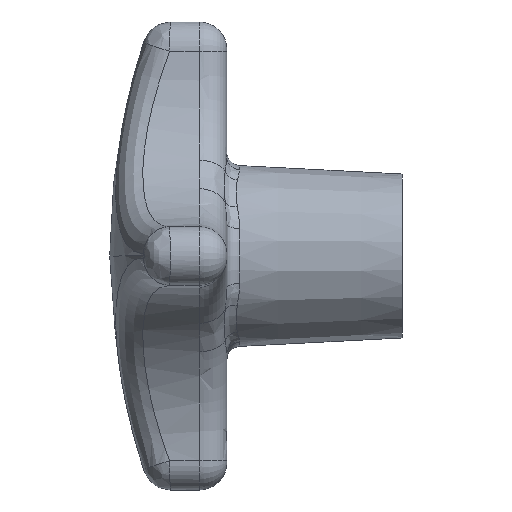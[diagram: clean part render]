
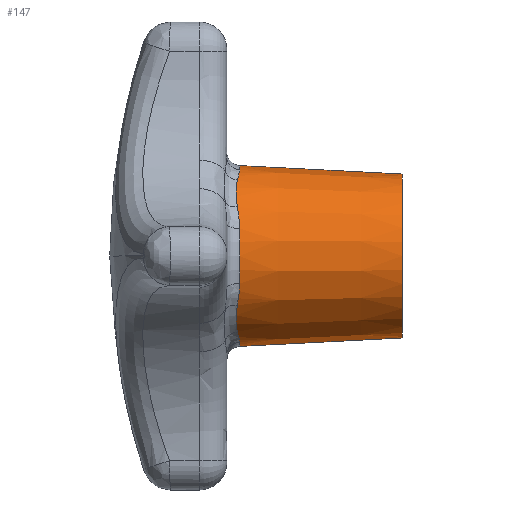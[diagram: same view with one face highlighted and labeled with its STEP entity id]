
A CAD part, left-side view. The second image highlights one B-rep face of the part: STEP entity #147.
In plain terms, the highlighted conical face has half-angle 3 degrees and reference radius 7 mm.
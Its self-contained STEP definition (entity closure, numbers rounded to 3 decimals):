
#12 = CARTESIAN_POINT ( 'NONE',  ( -5.67, -0.801, -5.282 ) ) ;
#14 = CARTESIAN_POINT ( 'NONE',  ( -6.861, -0.991, -3.636 ) ) ;
#23 = FACE_OUTER_BOUND ( 'NONE', #1424, .T. ) ;
#109 = CARTESIAN_POINT ( 'NONE',  ( -3.636, -0.991, -6.861 ) ) ;
#113 = VERTEX_POINT ( 'NONE', #1543 ) ;
#147 = ADVANCED_FACE ( 'NONE', ( #23 ), #2928, .T. ) ;
#245 = DIRECTION ( 'NONE',  ( 0., 1., 0. ) ) ;
#270 = EDGE_CURVE ( 'NONE', #2704, #2462, #1136, .T. ) ;
#289 = CARTESIAN_POINT ( 'NONE',  ( -6.489, -0.897, 4.218 ) ) ;
#303 = CARTESIAN_POINT ( 'NONE',  ( -7.15, -1.106, 3.016 ) ) ;
#318 = VERTEX_POINT ( 'NONE', #2044 ) ;
#338 = EDGE_CURVE ( 'NONE', #113, #3193, #2975, .T. ) ;
#375 = CARTESIAN_POINT ( 'NONE',  ( -2.349, -1.106, -7.363 ) ) ;
#377 = CARTESIAN_POINT ( 'NONE',  ( -3.636, -0.991, 6.861 ) ) ;
#385 = AXIS2_PLACEMENT_3D ( 'NONE', #2739, #2226, #2498 ) ;
#397 = CARTESIAN_POINT ( 'NONE',  ( -6.489, -0.897, -4.218 ) ) ;
#403 = DIRECTION ( 'NONE',  ( 0., 1., 0. ) ) ;
#404 = CARTESIAN_POINT ( 'NONE',  ( -6.343, -0.861, 4.445 ) ) ;
#417 = CARTESIAN_POINT ( 'NONE',  ( -6.489, -0.897, 4.218 ) ) ;
#497 = B_SPLINE_CURVE_WITH_KNOTS ( 'NONE', 3,
 ( #289, #2938, #303, #1103 ),
 .UNSPECIFIED., .F., .F.,
 ( 4, 4 ),
 ( 0., 0.002 ),
 .UNSPECIFIED. ) ;
#499 = CARTESIAN_POINT ( 'NONE',  ( 0., -15., 0. ) ) ;
#500 = DIRECTION ( 'NONE',  ( 0., -1., 0. ) ) ;
#513 = EDGE_CURVE ( 'NONE', #1246, #3373, #1219, .T. ) ;
#585 = CARTESIAN_POINT ( 'NONE',  ( -2.349, -1.106, 7.363 ) ) ;
#593 = ORIENTED_EDGE ( 'NONE', *, *, #2574, .T. ) ;
#665 = CARTESIAN_POINT ( 'NONE',  ( -4.218, -0.897, 6.489 ) ) ;
#754 = CARTESIAN_POINT ( 'NONE',  ( 0., -15., 7. ) ) ;
#796 = AXIS2_PLACEMENT_3D ( 'NONE', #996, #500, #2817 ) ;
#898 = CARTESIAN_POINT ( 'NONE',  ( 0., -15., 7. ) ) ;
#920 = CARTESIAN_POINT ( 'NONE',  ( -4.446, -0.861, 6.343 ) ) ;
#931 = CARTESIAN_POINT ( 'NONE',  ( -5.663, -0.8, 5.29 ) ) ;
#985 = CIRCLE ( 'NONE', #796, 7.728 ) ;
#996 = CARTESIAN_POINT ( 'NONE',  ( 0., -1.106, 0. ) ) ;
#1014 = VECTOR ( 'NONE', #2616, 1000. ) ;
#1067 = ORIENTED_EDGE ( 'NONE', *, *, #3282, .T. ) ;
#1080 = ORIENTED_EDGE ( 'NONE', *, *, #2258, .F. ) ;
#1103 = CARTESIAN_POINT ( 'NONE',  ( -7.363, -1.106, 2.349 ) ) ;
#1116 = EDGE_CURVE ( 'NONE', #1495, #1246, #1736, .T. ) ;
#1136 = B_SPLINE_CURVE_WITH_KNOTS ( 'NONE', 3,
 ( #665, #920, #2537, #1193, #3345, #931, #1758, #2810, #404, #1745 ),
 .UNSPECIFIED., .F., .F.,
 ( 4, 2, 2, 2, 4 ),
 ( 0., 0.001, 0.002, 0.002, 0.003 ),
 .UNSPECIFIED. ) ;
#1147 = CARTESIAN_POINT ( 'NONE',  ( -3.016, -1.106, 7.15 ) ) ;
#1193 = CARTESIAN_POINT ( 'NONE',  ( -5.082, -0.808, 5.849 ) ) ;
#1197 = EDGE_CURVE ( 'NONE', #2982, #1928, #2401, .T. ) ;
#1216 = ORIENTED_EDGE ( 'NONE', *, *, #3106, .T. ) ;
#1219 = LINE ( 'NONE', #754, #1014 ) ;
#1246 = VERTEX_POINT ( 'NONE', #898 ) ;
#1337 = ORIENTED_EDGE ( 'NONE', *, *, #1727, .T. ) ;
#1345 = CIRCLE ( 'NONE', #3424, 7.728 ) ;
#1357 = CARTESIAN_POINT ( 'NONE',  ( -4.218, -0.897, -6.489 ) ) ;
#1375 = ORIENTED_EDGE ( 'NONE', *, *, #513, .T. ) ;
#1401 = LINE ( 'NONE', #3233, #2565 ) ;
#1424 = EDGE_LOOP ( 'NONE', ( #1080, #3099, #1375, #2891, #1337, #1463, #593, #2214, #3115, #2234, #1216, #1067 ) ) ;
#1447 = CARTESIAN_POINT ( 'NONE',  ( -7.363, -1.106, 2.349 ) ) ;
#1463 = ORIENTED_EDGE ( 'NONE', *, *, #270, .T. ) ;
#1480 = CARTESIAN_POINT ( 'NONE',  ( 0., -1.106, 0. ) ) ;
#1495 = VERTEX_POINT ( 'NONE', #3250 ) ;
#1543 = CARTESIAN_POINT ( 'NONE',  ( -6.489, -0.897, -4.218 ) ) ;
#1592 = VERTEX_POINT ( 'NONE', #1805 ) ;
#1619 = B_SPLINE_CURVE_WITH_KNOTS ( 'NONE', 3,
 ( #585, #1147, #377, #2984 ),
 .UNSPECIFIED., .F., .F.,
 ( 4, 4 ),
 ( 0., 0.002 ),
 .UNSPECIFIED. ) ;
#1727 = EDGE_CURVE ( 'NONE', #2098, #2704, #1619, .T. ) ;
#1736 = CIRCLE ( 'NONE', #2071, 7. ) ;
#1745 = CARTESIAN_POINT ( 'NONE',  ( -6.489, -0.897, 4.218 ) ) ;
#1758 = CARTESIAN_POINT ( 'NONE',  ( -5.845, -0.807, 5.087 ) ) ;
#1805 = CARTESIAN_POINT ( 'NONE',  ( 0., -1.106, -7.728 ) ) ;
#1879 = CARTESIAN_POINT ( 'NONE',  ( -6.489, -0.897, -4.218 ) ) ;
#1902 = CARTESIAN_POINT ( 'NONE',  ( -6.186, -0.838, -4.664 ) ) ;
#1928 = VERTEX_POINT ( 'NONE', #2898 ) ;
#1977 = EDGE_CURVE ( 'NONE', #1928, #113, #2157, .T. ) ;
#1983 = CARTESIAN_POINT ( 'NONE',  ( 0., -15., 0. ) ) ;
#2007 = DIRECTION ( 'NONE',  ( 0., 0., -1. ) ) ;
#2044 = CARTESIAN_POINT ( 'NONE',  ( -2.349, -1.106, -7.363 ) ) ;
#2046 = CARTESIAN_POINT ( 'NONE',  ( -4.218, -0.897, -6.489 ) ) ;
#2071 = AXIS2_PLACEMENT_3D ( 'NONE', #1983, #403, #3297 ) ;
#2098 = VERTEX_POINT ( 'NONE', #2793 ) ;
#2157 = B_SPLINE_CURVE_WITH_KNOTS ( 'NONE', 3,
 ( #3212, #3433, #14, #1879 ),
 .UNSPECIFIED., .F., .F.,
 ( 4, 4 ),
 ( 0., 0.002 ),
 .UNSPECIFIED. ) ;
#2165 = CARTESIAN_POINT ( 'NONE',  ( -4.445, -0.861, -6.343 ) ) ;
#2214 = ORIENTED_EDGE ( 'NONE', *, *, #1197, .T. ) ;
#2226 = DIRECTION ( 'NONE',  ( 0., -1., 0. ) ) ;
#2234 = ORIENTED_EDGE ( 'NONE', *, *, #338, .T. ) ;
#2258 = EDGE_CURVE ( 'NONE', #1495, #1592, #1401, .T. ) ;
#2391 = CARTESIAN_POINT ( 'NONE',  ( -5.087, -0.807, -5.845 ) ) ;
#2401 = CIRCLE ( 'NONE', #385, 7.728 ) ;
#2416 = CARTESIAN_POINT ( 'NONE',  ( -5.849, -0.808, -5.082 ) ) ;
#2436 = CARTESIAN_POINT ( 'NONE',  ( -5.29, -0.8, -5.663 ) ) ;
#2449 = B_SPLINE_CURVE_WITH_KNOTS ( 'NONE', 3,
 ( #3275, #109, #3044, #375 ),
 .UNSPECIFIED., .F., .F.,
 ( 4, 4 ),
 ( 0., 0.002 ),
 .UNSPECIFIED. ) ;
#2462 = VERTEX_POINT ( 'NONE', #417 ) ;
#2498 = DIRECTION ( 'NONE',  ( 0., 0., -1. ) ) ;
#2537 = CARTESIAN_POINT ( 'NONE',  ( -4.664, -0.838, 6.186 ) ) ;
#2565 = VECTOR ( 'NONE', #2653, 1000. ) ;
#2574 = EDGE_CURVE ( 'NONE', #2462, #2982, #497, .T. ) ;
#2609 = CARTESIAN_POINT ( 'NONE',  ( -4.218, -0.897, 6.489 ) ) ;
#2616 = DIRECTION ( 'NONE',  ( 0., 0.999, 0.052 ) ) ;
#2653 = DIRECTION ( 'NONE',  ( 0., 0.999, -0.052 ) ) ;
#2682 = EDGE_CURVE ( 'NONE', #3373, #2098, #985, .T. ) ;
#2690 = CARTESIAN_POINT ( 'NONE',  ( -4.665, -0.838, -6.185 ) ) ;
#2704 = VERTEX_POINT ( 'NONE', #2609 ) ;
#2712 = AXIS2_PLACEMENT_3D ( 'NONE', #499, #245, #2902 ) ;
#2739 = CARTESIAN_POINT ( 'NONE',  ( 0., -1.106, 0. ) ) ;
#2793 = CARTESIAN_POINT ( 'NONE',  ( -2.349, -1.106, 7.363 ) ) ;
#2807 = CARTESIAN_POINT ( 'NONE',  ( 0., -1.106, 7.728 ) ) ;
#2810 = CARTESIAN_POINT ( 'NONE',  ( -6.185, -0.838, 4.665 ) ) ;
#2817 = DIRECTION ( 'NONE',  ( 0., 0., -1. ) ) ;
#2819 = CARTESIAN_POINT ( 'NONE',  ( -6.343, -0.861, -4.446 ) ) ;
#2891 = ORIENTED_EDGE ( 'NONE', *, *, #2682, .T. ) ;
#2898 = CARTESIAN_POINT ( 'NONE',  ( -7.363, -1.106, -2.349 ) ) ;
#2902 = DIRECTION ( 'NONE',  ( 0., 0., 1. ) ) ;
#2928 = CONICAL_SURFACE ( 'NONE', #2712, 7., 0.052 ) ;
#2938 = CARTESIAN_POINT ( 'NONE',  ( -6.861, -0.991, 3.636 ) ) ;
#2975 = B_SPLINE_CURVE_WITH_KNOTS ( 'NONE', 3,
 ( #397, #2819, #1902, #2416, #12, #2436, #2391, #2690, #2165, #1357 ),
 .UNSPECIFIED., .F., .F.,
 ( 4, 2, 2, 2, 4 ),
 ( 0., 0.001, 0.002, 0.002, 0.003 ),
 .UNSPECIFIED. ) ;
#2982 = VERTEX_POINT ( 'NONE', #1447 ) ;
#2984 = CARTESIAN_POINT ( 'NONE',  ( -4.218, -0.897, 6.489 ) ) ;
#3044 = CARTESIAN_POINT ( 'NONE',  ( -3.016, -1.106, -7.15 ) ) ;
#3099 = ORIENTED_EDGE ( 'NONE', *, *, #1116, .T. ) ;
#3106 = EDGE_CURVE ( 'NONE', #3193, #318, #2449, .T. ) ;
#3115 = ORIENTED_EDGE ( 'NONE', *, *, #1977, .T. ) ;
#3193 = VERTEX_POINT ( 'NONE', #2046 ) ;
#3212 = CARTESIAN_POINT ( 'NONE',  ( -7.363, -1.106, -2.349 ) ) ;
#3233 = CARTESIAN_POINT ( 'NONE',  ( 0., -15., -7. ) ) ;
#3250 = CARTESIAN_POINT ( 'NONE',  ( 0., -15., -7. ) ) ;
#3275 = CARTESIAN_POINT ( 'NONE',  ( -4.218, -0.897, -6.489 ) ) ;
#3282 = EDGE_CURVE ( 'NONE', #318, #1592, #1345, .T. ) ;
#3297 = DIRECTION ( 'NONE',  ( 0., 0., 1. ) ) ;
#3345 = CARTESIAN_POINT ( 'NONE',  ( -5.282, -0.801, 5.67 ) ) ;
#3354 = DIRECTION ( 'NONE',  ( 0., -1., 0. ) ) ;
#3373 = VERTEX_POINT ( 'NONE', #2807 ) ;
#3424 = AXIS2_PLACEMENT_3D ( 'NONE', #1480, #3354, #2007 ) ;
#3433 = CARTESIAN_POINT ( 'NONE',  ( -7.15, -1.106, -3.016 ) ) ;
